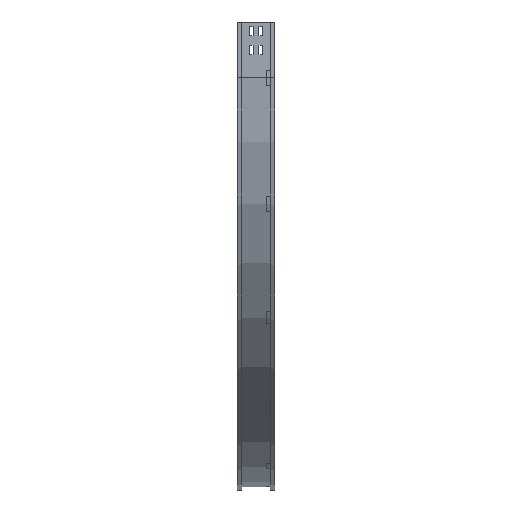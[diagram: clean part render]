
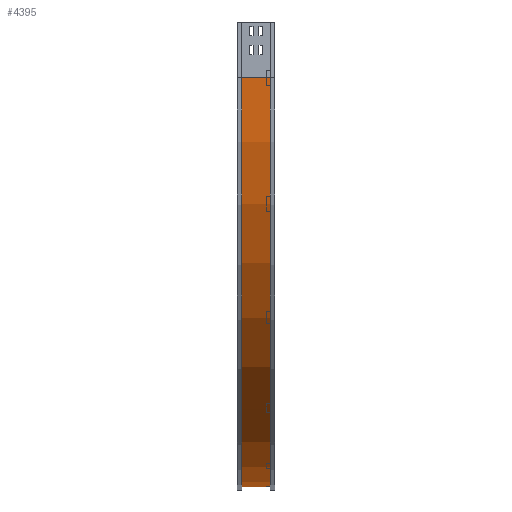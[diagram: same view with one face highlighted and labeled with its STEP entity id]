
A CAD part, left-side view. The second image highlights one B-rep face of the part: STEP entity #4395.
In plain terms, the highlighted cylindrical face has radius 1100 mm (diameter 2200 mm), a partial arc.
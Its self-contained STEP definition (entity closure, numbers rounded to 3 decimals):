
#128 = EDGE_LOOP ( 'NONE', ( #1225, #2496, #723, #2408 ) ) ;
#202 = LINE ( 'NONE', #586, #835 ) ;
#586 = CARTESIAN_POINT ( 'NONE',  ( 9., 12., -150. ) ) ;
#669 = DIRECTION ( 'NONE',  ( 0., -1., 0. ) ) ;
#686 = EDGE_CURVE ( 'NONE', #4185, #3698, #2588, .T. ) ;
#723 = ORIENTED_EDGE ( 'NONE', *, *, #4197, .T. ) ;
#835 = VECTOR ( 'NONE', #2638, 1000. ) ;
#844 = DIRECTION ( 'NONE',  ( 0., -1., 0. ) ) ;
#955 = EDGE_CURVE ( 'NONE', #1740, #2220, #202, .T. ) ;
#1045 = AXIS2_PLACEMENT_3D ( 'NONE', #1450, #1402, #2525 ) ;
#1161 = CARTESIAN_POINT ( 'NONE',  ( 1109., 12., -150. ) ) ;
#1225 = ORIENTED_EDGE ( 'NONE', *, *, #3075, .F. ) ;
#1402 = DIRECTION ( 'NONE',  ( 0., -1., 0. ) ) ;
#1450 = CARTESIAN_POINT ( 'NONE',  ( 1109., 88., -150. ) ) ;
#1537 = DIRECTION ( 'NONE',  ( 0., -1., 0. ) ) ;
#1740 = VERTEX_POINT ( 'NONE', #3345 ) ;
#1881 = FACE_OUTER_BOUND ( 'NONE', #128, .T. ) ;
#2033 = CARTESIAN_POINT ( 'NONE',  ( 1109., 12., -1250. ) ) ;
#2220 = VERTEX_POINT ( 'NONE', #4463 ) ;
#2373 = VECTOR ( 'NONE', #669, 1000. ) ;
#2408 = ORIENTED_EDGE ( 'NONE', *, *, #686, .T. ) ;
#2496 = ORIENTED_EDGE ( 'NONE', *, *, #955, .F. ) ;
#2525 = DIRECTION ( 'NONE',  ( -1., 0., 0. ) ) ;
#2561 = DIRECTION ( 'NONE',  ( -1., 0., 0. ) ) ;
#2588 = LINE ( 'NONE', #3448, #2373 ) ;
#2634 = CYLINDRICAL_SURFACE ( 'NONE', #2879, 1100. ) ;
#2638 = DIRECTION ( 'NONE',  ( 0., -1., 0. ) ) ;
#2879 = AXIS2_PLACEMENT_3D ( 'NONE', #3675, #1537, #3305 ) ;
#3024 = CIRCLE ( 'NONE', #1045, 1100. ) ;
#3075 = EDGE_CURVE ( 'NONE', #2220, #3698, #4059, .T. ) ;
#3305 = DIRECTION ( 'NONE',  ( 0., 0., -1. ) ) ;
#3345 = CARTESIAN_POINT ( 'NONE',  ( 9., 88., -150. ) ) ;
#3448 = CARTESIAN_POINT ( 'NONE',  ( 1109., 12., -1250. ) ) ;
#3557 = AXIS2_PLACEMENT_3D ( 'NONE', #1161, #844, #2561 ) ;
#3675 = CARTESIAN_POINT ( 'NONE',  ( 1109., 0., -150. ) ) ;
#3698 = VERTEX_POINT ( 'NONE', #2033 ) ;
#3869 = CARTESIAN_POINT ( 'NONE',  ( 1109., 88., -1250. ) ) ;
#4059 = CIRCLE ( 'NONE', #3557, 1100. ) ;
#4185 = VERTEX_POINT ( 'NONE', #3869 ) ;
#4197 = EDGE_CURVE ( 'NONE', #1740, #4185, #3024, .T. ) ;
#4395 = ADVANCED_FACE ( 'NONE', ( #1881 ), #2634, .T. ) ;
#4463 = CARTESIAN_POINT ( 'NONE',  ( 9., 12., -150. ) ) ;
